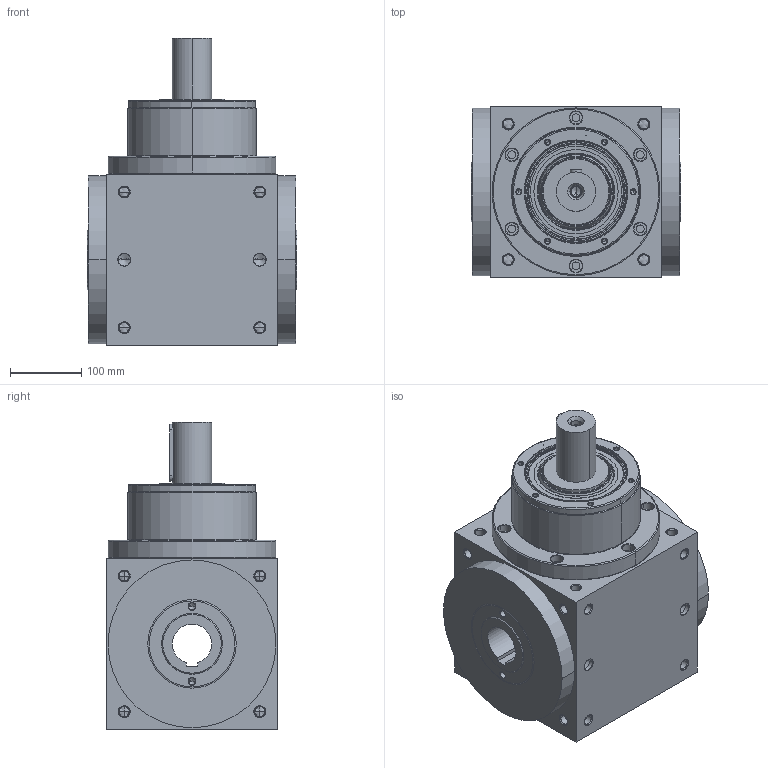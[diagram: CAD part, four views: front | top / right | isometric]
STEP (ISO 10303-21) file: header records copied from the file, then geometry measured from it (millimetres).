
FILE_DESCRIPTION((''),'2;1');
FILE_NAME('AT240H-1_ASM','2009-02-03T',('d00080'),(''),'PRO/ENGINEER BY PARAMETRIC TECHNOLOGY CORPORATION, 2006170','PRO/ENGINEER BY PARAMETRIC TECHNOLOGY CORPORATION, 2006170','');
FILE_SCHEMA(('CONFIG_CONTROL_DESIGN'));
Length unit declared in the file: millimetre
Products named in the file (6): AT240H-1; P1801900001; 22400071009; P1208900001; P0904901001; AT240H-1_ASM
Assembly tree (5 placements, depth 2):
  AT240H-1_ASM
    AT240H-1
    P1801900001
    22400071009
    P1208900001
    P0904901001
Bounding box: 294 x 240 x 430 mm (x, y, z)
Volume: 17185013.1 mm3; surface area: 790888.3 mm2
Topology: 6 solids, 38 shells, 629 faces, 1547 edges, 914 vertices
Faces by surface type: cylinder 271, cone 238, plane 80, torus 40
Entity records: 19016 total; most frequent: CARTESIAN_POINT 4101, DIRECTION 3359, ORIENTED_EDGE 2814, EDGE_CURVE 1471, AXIS2_PLACEMENT_3D 1408, VERTEX_POINT 914, CIRCLE 760, EDGE_LOOP 747
